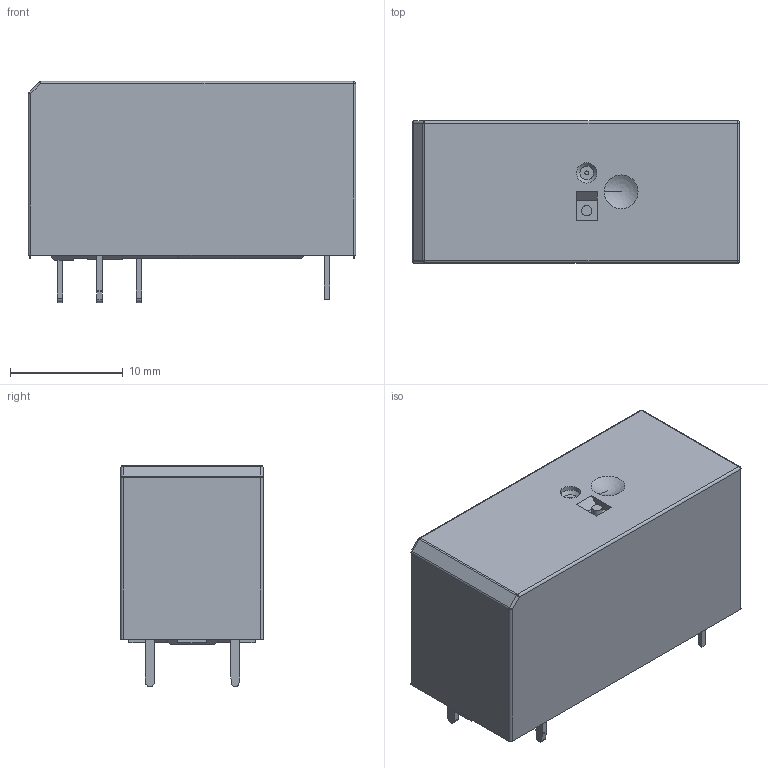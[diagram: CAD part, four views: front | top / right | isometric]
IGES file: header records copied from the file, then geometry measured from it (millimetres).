
Global section: file name: Filename.iges; native system: Open CASCADE 7.3; preprocessor: Open CASCADE IGES processor 7.3; author: VKV; organization: Metaltex; date: 20200625.092254; units: millimetre
Bounding box: 29 x 12.6 x 19.6 mm (x, y, z)
Surface area: 2819.9 mm2 (no closed solid volume)
Topology: 0 solids, 0 shells, 212 faces, 1081 edges, 1051 vertices
Faces by surface type: plane 139, revolution 67, bspline 6
